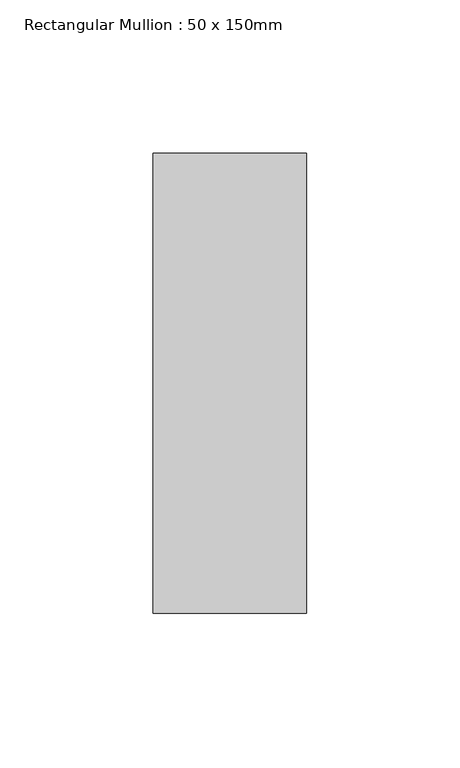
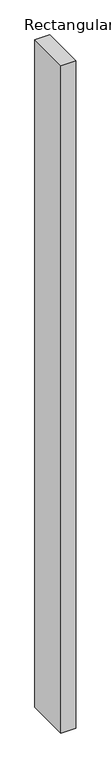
"""IFC4 building model written with IfcOpenShell, lengths in millimetres: member geometry, Rectangular Mullion : 50 x 150mm."""

from ifc_helpers import new_model, si_unit, frame, origin, place, context, project, spatial, polyline, outline, extrude, source, transform, mapped, element, save


def rectangular_mullion_50_x_150mm_10672d7d(model_context):
    return source(origin(), model_context, "Body", "SweptSolid", [
        extrude(outline(polyline([(0.0, 75.0), (0.0, -75.0), (-50.0, -75.0), (-50.0, 75.0), (0.0, 75.0)])), frame((0.0, 0.0, -2349.9999994), z_axis=(0.0, 0.0, 1.0), x_axis=(1.0, 0.0, 0.0)), (0.0, 0.0, 1.0), 2349.9999994),
    ])


if __name__ == "__main__":
    model = new_model("IFC4")
    model_context = context("Model", 3, world=origin())
    ifc_project = project(units=[si_unit("LENGTHUNIT", "METRE", prefix="MILLI")], contexts=[model_context])
    site = spatial("IfcSite", under=ifc_project)
    building = spatial("IfcBuilding", under=site)
    placement = place(None, origin())
    rectangular_mullion_50_x_150mm_shape = rectangular_mullion_50_x_150mm_10672d7d(model_context)
    element("IfcMember", 1, ObjectType="Rectangular Mullion : 50 x 150mm", at=placement, inside=building, context=model_context, shape_type="MappedRepresentation", body=[
        mapped(rectangular_mullion_50_x_150mm_shape, transform((0.0, 0.0, 0.0), x_axis=(1.0, 0.0, 0.0), y_axis=(0.0, 1.0, 0.0), z_axis=(0.0, 0.0, 1.0))),
    ])
    save(model, "model.ifc")
